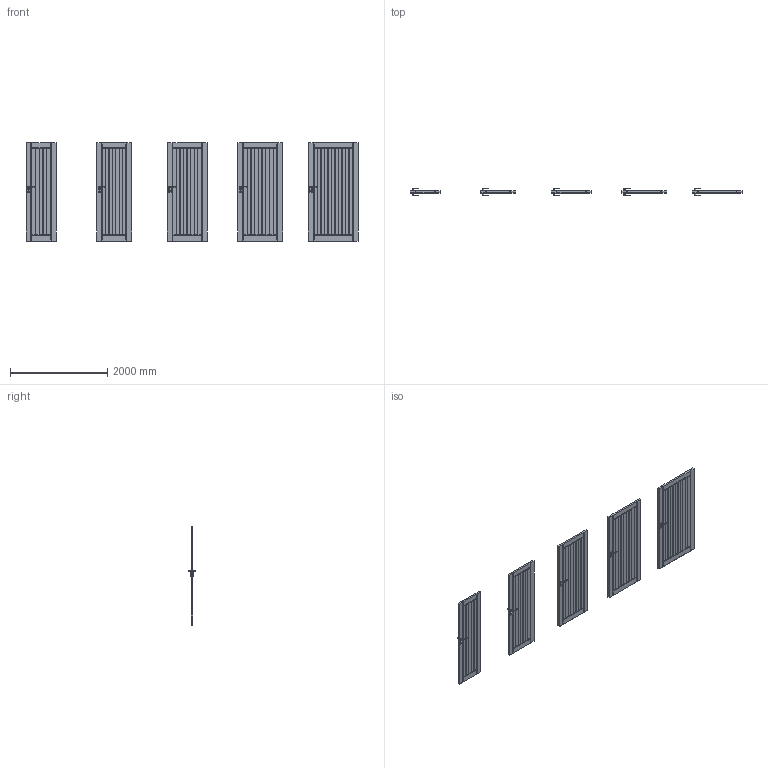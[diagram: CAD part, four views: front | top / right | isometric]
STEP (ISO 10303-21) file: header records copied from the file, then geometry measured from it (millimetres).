
FILE_DESCRIPTION(/* description */ (''),/* implementation_level */ '2;1');
FILE_NAME(/* name */ '049851_A_2-Skrzydło OSLO model 1_ polska norma _PN__ bezprzylgowe..stp',/* time_stamp */ '2024-09-03T11:57:55+02:00',/* author */ (''),/* organization */ (''),/* preprocessor_version */ 'ST-DEVELOPER v16',/* originating_system */ 'SIEMENS PLM Software NX 11.0',/* authorisation */ '');
FILE_SCHEMA (('AUTOMOTIVE_DESIGN { 1 0 10303 214 3 1 1 1 }'));
Products named in the file (1): bkni2A047F3F884t
Bounding box: 6818 x 153.13 x 2017 mm (x, y, z)
Volume: 323689457 mm3; surface area: 17980257.9 mm2
Topology: 25 solids, 25 shells, 2550 faces, 6590 edges, 4000 vertices
Faces by surface type: plane 1090, cylinder 880, bspline 160, sphere 140, cone 140, torus 140
Entity records: 87256 total; most frequent: CARTESIAN_POINT 26888, ORIENTED_EDGE 12900, DIRECTION 12272, EDGE_CURVE 6450, AXIS2_PLACEMENT_3D 4431, VERTEX_POINT 4000, LINE 3410, VECTOR 3410
